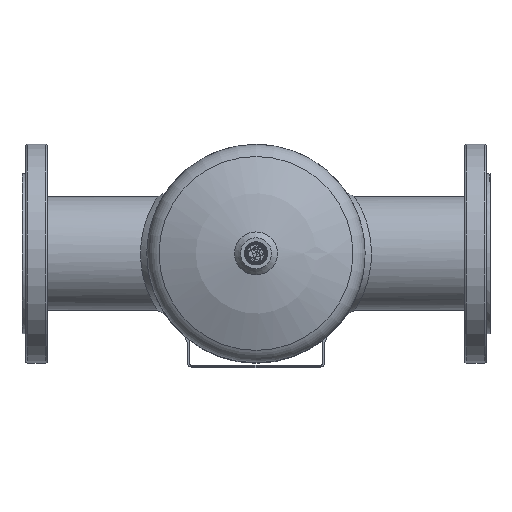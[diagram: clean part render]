
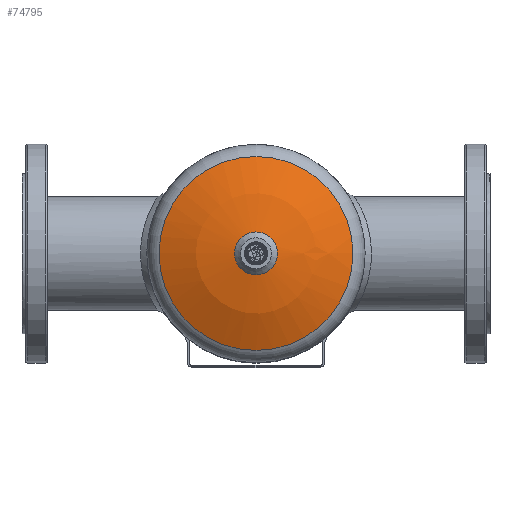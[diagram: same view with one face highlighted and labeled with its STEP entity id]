
A CAD part, top view. The second image highlights one B-rep face of the part: STEP entity #74795.
In plain terms, the highlighted spherical face has radius 219.1 mm.
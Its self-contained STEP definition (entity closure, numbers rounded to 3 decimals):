
#29195=ORIENTED_EDGE('',*,*,#36809,.T.);
#29196=ORIENTED_EDGE('',*,*,#36820,.T.);
#36809=EDGE_CURVE('',#41938,#41938,#42242,.T.);
#36820=EDGE_CURVE('',#41949,#41949,#42249,.T.);
#41938=VERTEX_POINT('',#158080);
#41949=VERTEX_POINT('',#158106);
#42242=CIRCLE('',#77362,21.614);
#42249=CIRCLE('',#77373,97.378);
#46037=EDGE_LOOP('',(#29195));
#46038=EDGE_LOOP('',(#29196));
#49854=FACE_BOUND('',#46037,.T.);
#49855=FACE_BOUND('',#46038,.T.);
#49904=SPHERICAL_SURFACE('',#77372,219.1);
#74795=ADVANCED_FACE('',(#49854,#49855),#49904,.T.);
#77362=AXIS2_PLACEMENT_3D('',#158079,#86278,#86279);
#77372=AXIS2_PLACEMENT_3D('',#158104,#86302,#86303);
#77373=AXIS2_PLACEMENT_3D('',#158105,#86304,#86305);
#86278=DIRECTION('',(0.,0.,-1.));
#86279=DIRECTION('',(0.,1.,0.));
#86302=DIRECTION('',(0.,0.,1.));
#86303=DIRECTION('',(1.,0.,0.));
#86304=DIRECTION('',(0.,0.,1.));
#86305=DIRECTION('',(1.,0.,0.));
#158079=CARTESIAN_POINT('',(0.,0.,129.931));
#158080=CARTESIAN_POINT('',(0.,21.614,129.931));
#158104=CARTESIAN_POINT('',(0.,0.,-88.1));
#158105=CARTESIAN_POINT('',(0.,0.,108.171));
#158106=CARTESIAN_POINT('',(97.378,0.,108.171));
